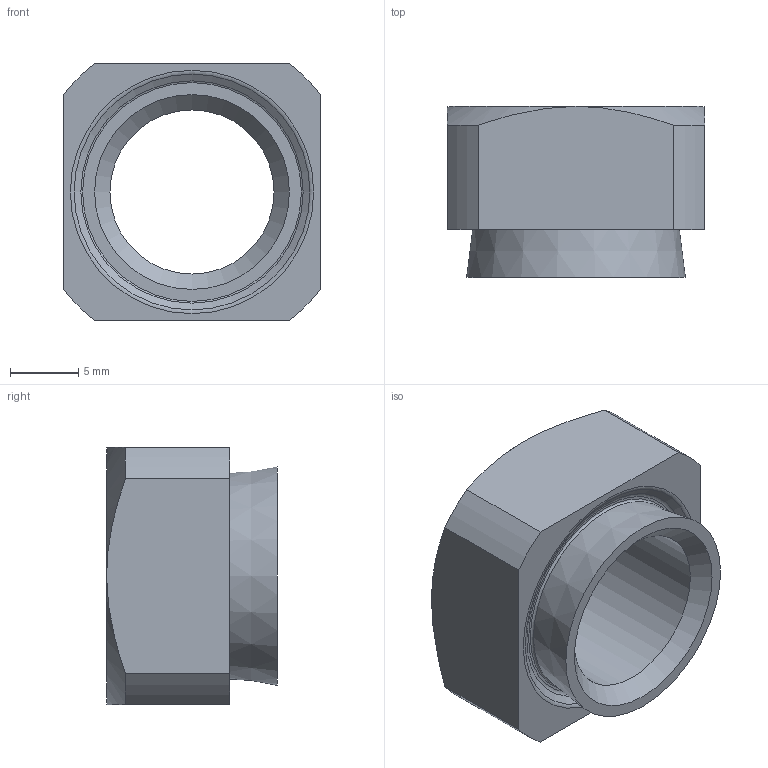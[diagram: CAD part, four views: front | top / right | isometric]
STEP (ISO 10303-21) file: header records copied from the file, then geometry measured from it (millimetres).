
FILE_DESCRIPTION(/* description */ (''),/* implementation_level */ '2;1');
FILE_NAME(/* name */ 'D:\Sukhmani\Fastit\HN Nut\HN 12-4.0.stp',/* time_stamp */ '2024-03-14T12:22:00+06:00',/* author */ ('edc.sukhmani'),/* organization */ (''),/* preprocessor_version */ 'ST-DEVELOPER v18.1',/* originating_system */ 'Autodesk Inventor 2022',/* authorisation */ '');
FILE_SCHEMA (('AUTOMOTIVE_DESIGN { 1 0 10303 214 3 1 1 }'));
Length unit declared in the file: millimetre
Products named in the file (1): HN 12-4.0
Bounding box: 18.8 x 12.5 x 18.8 mm (x, y, z)
Volume: 2227.4 mm3; surface area: 1706.9 mm2
Topology: 1 solids, 1 shells, 25 faces, 57 edges, 36 vertices
Faces by surface type: cone 8, plane 8, cylinder 6, torus 3
Full cylindrical faces by diameter (mm): 12 x1, 14.25 x1
Entity records: 753 total; most frequent: CARTESIAN_POINT 135, DIRECTION 132, ORIENTED_EDGE 114, EDGE_CURVE 57, AXIS2_PLACEMENT_3D 57, VERTEX_POINT 36, CIRCLE 31, EDGE_LOOP 29
